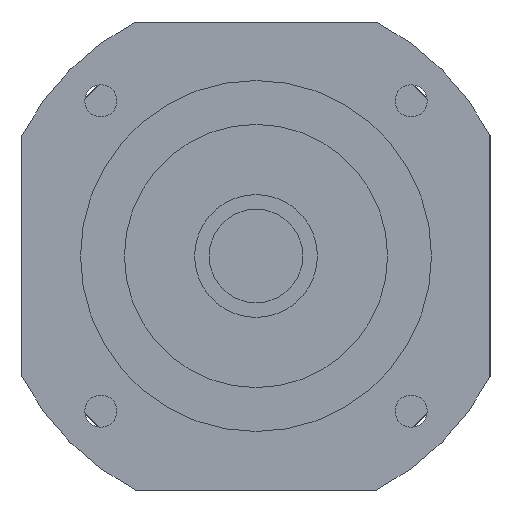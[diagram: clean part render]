
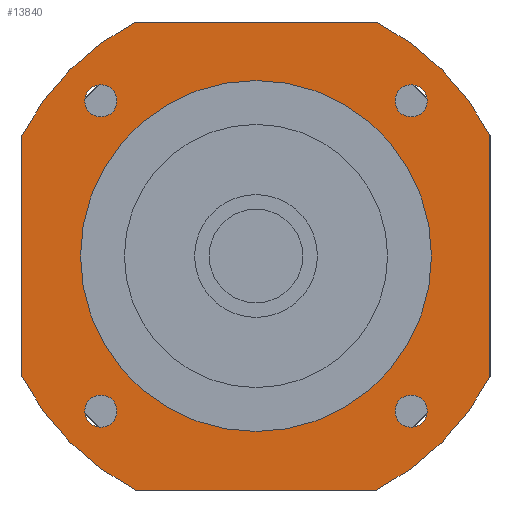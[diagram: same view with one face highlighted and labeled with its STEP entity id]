
A CAD part, left-side view. The second image highlights one B-rep face of the part: STEP entity #13840.
In plain terms, the highlighted planar face has unit normal (-1, 0, 0) as drawn and (0, 0, -1) by its records, which use the part's own axes.
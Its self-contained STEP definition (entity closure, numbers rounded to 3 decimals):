
#8680=CARTESIAN_POINT('',(-20.616,-40.,-42.2));
#8690=VERTEX_POINT('',#8680);
#8740=CARTESIAN_POINT('',(0.,0.,
-42.2));
#8750=DIRECTION('',(0.,0.,-1.));
#8760=DIRECTION('',(1.,0.,0.));
#8770=AXIS2_PLACEMENT_3D('',#8740,#8750,#8760);
#8780=CIRCLE('',#8770,45.);
#8790=CARTESIAN_POINT('',(-40.,-20.616,-42.2));
#8800=VERTEX_POINT('',#8790);
#8810=EDGE_CURVE('',#8690,#8800,#8780,.T.);
#9100=CARTESIAN_POINT('',(40.,-20.616,-42.2));
#9110=VERTEX_POINT('',#9100);
#9160=CARTESIAN_POINT('',(0.,0.,
-42.2));
#9170=DIRECTION('',(0.,0.,-1.));
#9180=DIRECTION('',(1.,0.,0.));
#9190=AXIS2_PLACEMENT_3D('',#9160,#9170,#9180);
#9200=CIRCLE('',#9190,45.);
#9210=CARTESIAN_POINT('',(20.616,-40.,-42.2));
#9220=VERTEX_POINT('',#9210);
#9230=EDGE_CURVE('',#9110,#9220,#9200,.T.);
#12370=CARTESIAN_POINT('',(23.767,-26.517,-42.2));
#12380=VERTEX_POINT('',#12370);
#12410=CARTESIAN_POINT('',(26.517,-26.517,-42.2));
#12420=DIRECTION('',(0.,0.,-1.));
#12430=DIRECTION('',(1.,0.,0.));
#12440=AXIS2_PLACEMENT_3D('',#12410,#12420,#12430);
#12450=CIRCLE('',#12440,2.75);
#12460=CARTESIAN_POINT('',(29.267,-26.517,-42.2));
#12470=VERTEX_POINT('',#12460);
#12480=EDGE_CURVE('',#12470,#12380,#12450,.T.);
#12600=CARTESIAN_POINT('',(40.,40.,-42.2));
#12610=DIRECTION('',(0.,0.,-1.));
#12620=DIRECTION('',(1.,0.,0.));
#12630=AXIS2_PLACEMENT_3D('',#12600,#12610,#12620);
#12640=PLANE('',#12630);
#12650=CARTESIAN_POINT('',(-26.517,-26.517,-42.2));
#12660=DIRECTION('',(0.,0.,-1.));
#12670=DIRECTION('',(0.,-1.,0.));
#12680=AXIS2_PLACEMENT_3D('',#12650,#12660,#12670);
#12690=CIRCLE('',#12680,2.75);
#12700=CARTESIAN_POINT('',(-26.517,-29.267,-42.2));
#12710=VERTEX_POINT('',#12700);
#12720=CARTESIAN_POINT('',(-26.517,-23.767,-42.2));
#12730=VERTEX_POINT('',#12720);
#12740=EDGE_CURVE('',#12710,#12730,#12690,.T.);
#12750=ORIENTED_EDGE('',*,*,#12740,.F.);
#12760=EDGE_CURVE('',#12730,#12710,#12690,.T.);
#12770=ORIENTED_EDGE('',*,*,#12760,.F.);
#12780=EDGE_LOOP('',(#12770,#12750));
#12790=FACE_BOUND('',#12780,.T.);
#12800=CARTESIAN_POINT('',(-26.517,26.517,-42.2));
#12810=DIRECTION('',(0.,0.,-1.));
#12820=DIRECTION('',(-1.,0.,0.));
#12830=AXIS2_PLACEMENT_3D('',#12800,#12810,#12820);
#12840=CIRCLE('',#12830,2.75);
#12850=CARTESIAN_POINT('',(-29.267,26.517,-42.2));
#12860=VERTEX_POINT('',#12850);
#12870=CARTESIAN_POINT('',(-23.767,26.517,-42.2));
#12880=VERTEX_POINT('',#12870);
#12890=EDGE_CURVE('',#12860,#12880,#12840,.T.);
#12900=ORIENTED_EDGE('',*,*,#12890,.F.);
#12910=EDGE_CURVE('',#12880,#12860,#12840,.T.);
#12920=ORIENTED_EDGE('',*,*,#12910,.F.);
#12930=EDGE_LOOP('',(#12920,#12900));
#12940=FACE_BOUND('',#12930,.T.);
#12950=CARTESIAN_POINT('',(26.517,26.517,-42.2));
#12960=DIRECTION('',(0.,0.,-1.));
#12970=DIRECTION('',(0.,1.,0.));
#12980=AXIS2_PLACEMENT_3D('',#12950,#12960,#12970);
#12990=CIRCLE('',#12980,2.75);
#13000=CARTESIAN_POINT('',(26.517,29.267,-42.2));
#13010=VERTEX_POINT('',#13000);
#13020=CARTESIAN_POINT('',(26.517,23.767,-42.2));
#13030=VERTEX_POINT('',#13020);
#13040=EDGE_CURVE('',#13010,#13030,#12990,.T.);
#13050=ORIENTED_EDGE('',*,*,#13040,.F.);
#13060=EDGE_CURVE('',#13030,#13010,#12990,.T.);
#13070=ORIENTED_EDGE('',*,*,#13060,.F.);
#13080=EDGE_LOOP('',(#13070,#13050));
#13090=FACE_BOUND('',#13080,.T.);
#13100=CARTESIAN_POINT('',(0.,0.,
-42.2));
#13110=DIRECTION('',(0.,0.,1.));
#13120=DIRECTION('',(0.,1.,0.));
#13130=AXIS2_PLACEMENT_3D('',#13100,#13110,#13120);
#13140=CIRCLE('',#13130,30.);
#13150=CARTESIAN_POINT('',(-30.,0.,-42.2));
#13160=VERTEX_POINT('',#13150);
#13170=CARTESIAN_POINT('',(30.,0.,-42.2));
#13180=VERTEX_POINT('',#13170);
#13190=EDGE_CURVE('',#13160,#13180,#13140,.T.);
#13200=ORIENTED_EDGE('',*,*,#13190,.T.);
#13210=CARTESIAN_POINT('',(0.,30.,-42.2));
#13220=VERTEX_POINT('',#13210);
#13230=EDGE_CURVE('',#13220,#13160,#13140,.T.);
#13240=ORIENTED_EDGE('',*,*,#13230,.T.);
#13250=EDGE_CURVE('',#13180,#13220,#13140,.T.);
#13260=ORIENTED_EDGE('',*,*,#13250,.T.);
#13270=EDGE_LOOP('',(#13260,#13240,#13200));
#13280=FACE_BOUND('',#13270,.T.);
#13290=CARTESIAN_POINT('',(-40.,40.,-42.2));
#13300=DIRECTION('',(1.,0.,0.));
#13310=VECTOR('',#13300,1000.);
#13320=LINE('',#13290,#13310);
#13330=CARTESIAN_POINT('',(-20.616,40.,-42.2));
#13340=VERTEX_POINT('',#13330);
#13350=CARTESIAN_POINT('',(20.616,40.,-42.2));
#13360=VERTEX_POINT('',#13350);
#13370=EDGE_CURVE('',#13340,#13360,#13320,.T.);
#13380=ORIENTED_EDGE('',*,*,#13370,.T.);
#13390=CARTESIAN_POINT('',(0.,0.,
-42.2));
#13400=DIRECTION('',(0.,0.,-1.));
#13410=DIRECTION('',(1.,0.,0.));
#13420=AXIS2_PLACEMENT_3D('',#13390,#13400,#13410);
#13430=CIRCLE('',#13420,45.);
#13440=CARTESIAN_POINT('',(-40.,20.616,-42.2));
#13450=VERTEX_POINT('',#13440);
#13460=EDGE_CURVE('',#13450,#13340,#13430,.T.);
#13470=ORIENTED_EDGE('',*,*,#13460,.T.);
#13480=CARTESIAN_POINT('',(-40.,-40.,-42.2));
#13490=DIRECTION('',(0.,1.,0.));
#13500=VECTOR('',#13490,1000.);
#13510=LINE('',#13480,#13500);
#13520=EDGE_CURVE('',#8800,#13450,#13510,.T.);
#13530=ORIENTED_EDGE('',*,*,#13520,.T.);
#13540=ORIENTED_EDGE('',*,*,#8810,.T.);
#13550=CARTESIAN_POINT('',(40.,-40.,-42.2));
#13560=DIRECTION('',(-1.,0.,0.));
#13570=VECTOR('',#13560,1000.);
#13580=LINE('',#13550,#13570);
#13590=EDGE_CURVE('',#9220,#8690,#13580,.T.);
#13600=ORIENTED_EDGE('',*,*,#13590,.T.);
#13610=ORIENTED_EDGE('',*,*,#9230,.T.);
#13620=CARTESIAN_POINT('',(40.,40.,-42.2));
#13630=DIRECTION('',(0.,-1.,0.));
#13640=VECTOR('',#13630,1000.);
#13650=LINE('',#13620,#13640);
#13660=CARTESIAN_POINT('',(40.,20.616,-42.2));
#13670=VERTEX_POINT('',#13660);
#13680=EDGE_CURVE('',#13670,#9110,#13650,.T.);
#13690=ORIENTED_EDGE('',*,*,#13680,.T.);
#13700=CARTESIAN_POINT('',(0.,0.,
-42.2));
#13710=DIRECTION('',(0.,0.,-1.));
#13720=DIRECTION('',(1.,0.,0.));
#13730=AXIS2_PLACEMENT_3D('',#13700,#13710,#13720);
#13740=CIRCLE('',#13730,45.);
#13750=EDGE_CURVE('',#13360,#13670,#13740,.T.);
#13760=ORIENTED_EDGE('',*,*,#13750,.T.);
#13770=EDGE_LOOP('',(#13760,#13690,#13610,#13600,#13540,#13530,#13470,
#13380));
#13780=FACE_OUTER_BOUND('',#13770,.T.);
#13790=ORIENTED_EDGE('',*,*,#12480,.F.);
#13800=EDGE_CURVE('',#12380,#12470,#12450,.T.);
#13810=ORIENTED_EDGE('',*,*,#13800,.F.);
#13820=EDGE_LOOP('',(#13810,#13790));
#13830=FACE_BOUND('',#13820,.T.);
#13840=ADVANCED_FACE('',(#12790,#12940,#13090,#13280,#13780,#13830),
#12640,.T.);
